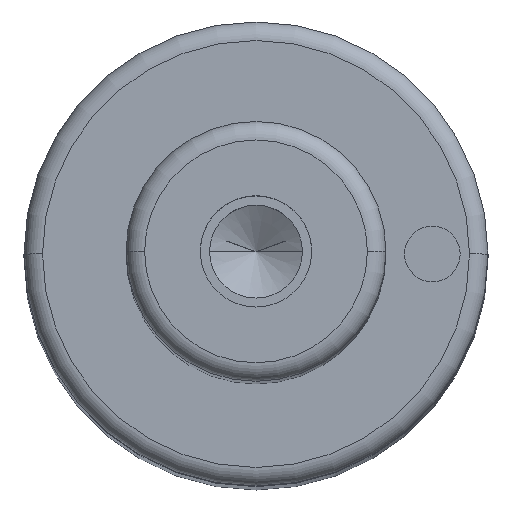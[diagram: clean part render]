
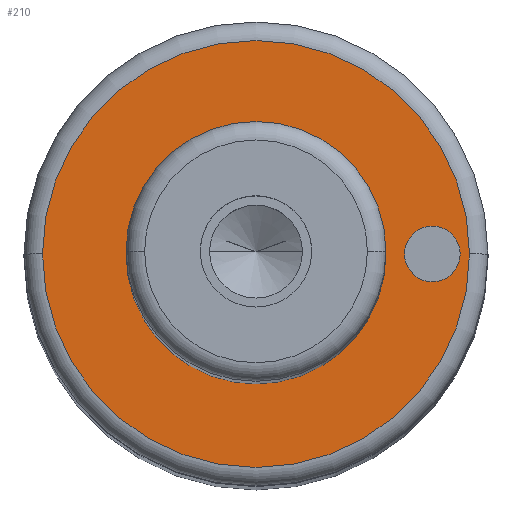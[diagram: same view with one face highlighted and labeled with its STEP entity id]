
A CAD part, top view. The second image highlights one B-rep face of the part: STEP entity #210.
In plain terms, the highlighted planar face has unit normal (0, 0, 1).
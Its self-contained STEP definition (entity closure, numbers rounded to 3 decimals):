
#99=PLANE('',#660);
#107=FACE_BOUND('',#285,.T.);
#108=FACE_BOUND('',#286,.T.);
#109=FACE_BOUND('',#287,.T.);
#210=ADVANCED_FACE('',(#107,#108,#109),#99,.T.);
#285=EDGE_LOOP('',(#395,#396));
#286=EDGE_LOOP('',(#397,#398));
#287=EDGE_LOOP('',(#399,#400));
#395=ORIENTED_EDGE('',*,*,#500,.F.);
#396=ORIENTED_EDGE('',*,*,#501,.F.);
#397=ORIENTED_EDGE('',*,*,#533,.F.);
#398=ORIENTED_EDGE('',*,*,#534,.F.);
#399=ORIENTED_EDGE('',*,*,#496,.T.);
#400=ORIENTED_EDGE('',*,*,#494,.T.);
#447=VERTEX_POINT('',#894);
#448=VERTEX_POINT('',#896);
#449=VERTEX_POINT('',#902);
#452=VERTEX_POINT('',#907);
#470=VERTEX_POINT('',#977);
#471=VERTEX_POINT('',#978);
#494=EDGE_CURVE('',#448,#447,#561,.T.);
#496=EDGE_CURVE('',#447,#448,#562,.T.);
#500=EDGE_CURVE('',#452,#449,#566,.T.);
#501=EDGE_CURVE('',#449,#452,#567,.T.);
#533=EDGE_CURVE('',#470,#471,#587,.T.);
#534=EDGE_CURVE('',#471,#470,#588,.T.);
#561=CIRCLE('',#612,7.);
#562=CIRCLE('',#614,7.);
#566=CIRCLE('',#619,11.5);
#567=CIRCLE('',#621,11.5);
#587=CIRCLE('',#658,1.5);
#588=CIRCLE('',#659,1.5);
#612=AXIS2_PLACEMENT_3D('',#895,#711,#712);
#614=AXIS2_PLACEMENT_3D('',#899,#716,#717);
#619=AXIS2_PLACEMENT_3D('',#908,#726,#727);
#621=AXIS2_PLACEMENT_3D('',#910,#730,#731);
#658=AXIS2_PLACEMENT_3D('',#976,#816,#817);
#659=AXIS2_PLACEMENT_3D('',#979,#818,#819);
#660=AXIS2_PLACEMENT_3D('',#980,#820,#821);
#711=DIRECTION('',(0.,0.,-1.));
#712=DIRECTION('',(0.,1.,0.));
#716=DIRECTION('',(0.,0.,-1.));
#717=DIRECTION('',(0.,-1.,0.));
#726=DIRECTION('',(0.,0.,-1.));
#727=DIRECTION('',(0.,1.,0.));
#730=DIRECTION('',(0.,0.,-1.));
#731=DIRECTION('',(0.,-1.,0.));
#816=DIRECTION('',(0.,0.,1.));
#817=DIRECTION('',(0.,1.,0.));
#818=DIRECTION('',(0.,0.,1.));
#819=DIRECTION('',(0.,-1.,0.));
#820=DIRECTION('',(0.,0.,1.));
#821=DIRECTION('',(0.,-1.,0.));
#894=CARTESIAN_POINT('',(-7.,0.,124.));
#895=CARTESIAN_POINT('',(0.,0.,124.));
#896=CARTESIAN_POINT('',(7.,0.,124.));
#899=CARTESIAN_POINT('',(0.,0.,124.));
#902=CARTESIAN_POINT('',(-11.5,0.,124.));
#907=CARTESIAN_POINT('',(11.5,0.,124.));
#908=CARTESIAN_POINT('',(0.,0.,124.));
#910=CARTESIAN_POINT('',(0.,0.,124.));
#976=CARTESIAN_POINT('',(9.5,0.,124.));
#977=CARTESIAN_POINT('',(8.,0.,124.));
#978=CARTESIAN_POINT('',(11.,0.,124.));
#979=CARTESIAN_POINT('',(9.5,0.,124.));
#980=CARTESIAN_POINT('',(0.,0.,124.));
